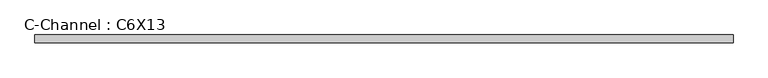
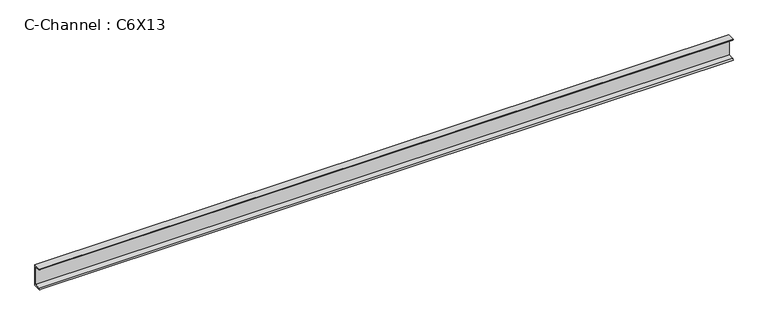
"""IFC4 building model written with IfcOpenShell, lengths in millimetres: beam geometry, C-Channel : C6X13."""

import ifcopenshell
import ifcopenshell.guid

model = None  # the IFC model being written
_history = None  # IfcOwnerHistory: only IFC2X3 demands one
_inside = {}  # id of a spatial element -> (the spatial element, [elements in it])
_under = {}  # id of a project, library or spatial element -> (it, [spatial elements below it])
_declared = {}  # id of a project -> (the project, [libraries it declares])
_typed = {}  # id of a type object -> (the type object, [elements of that type])
_made_of = {}  # id of a material, layer set ... -> (it, [elements and type objects made of it])


def new_model(schema):
    """Start an empty IFC model of exactly this schema.

    Asked for "IFC4X3", IfcOpenShell would pick the latest addendum, in which some entities
    have other attributes; the version numbers below select the first issue.
    IFC2X3 requires an IfcOwnerHistory on every rooted entity: one is made here for all.
    """
    global model, _history
    if schema == "IFC4X3":
        model = ifcopenshell.file(schema_version=(4, 3, 0, 0))
    else:
        model = ifcopenshell.file(schema=schema)
    _inside.clear()
    _under.clear()
    _declared.clear()
    _typed.clear()
    _made_of.clear()
    _history = None
    if model.schema == "IFC2X3":
        org = make("IfcOrganization", Name="unknown")
        user = make(
            "IfcPersonAndOrganization",
            ThePerson=make("IfcPerson", FamilyName="unknown"),
            TheOrganization=org,
        )
        app = make(
            "IfcApplication",
            ApplicationDeveloper=org,
            Version="unknown",
            ApplicationFullName="unknown",
            ApplicationIdentifier="unknown",
        )
        _history = make(
            "IfcOwnerHistory",
            OwningUser=user,
            OwningApplication=app,
            ChangeAction="ADDED",
            CreationDate=0,
        )
    return model


def make(cls, **values):
    """One entity of the class cls with the attributes given. An attribute that is None is left unset."""
    return model.create_entity(
        cls, **{name: value for name, value in values.items() if value is not None}
    )


def rooted(cls, **values):
    """An entity with a GlobalId (a new one), such as an element, a storey or a relation."""
    return make(cls, GlobalId=ifcopenshell.guid.new(), OwnerHistory=_history, **values)


def si_unit(unit_type, name, prefix=None):
    """IfcSIUnit, for example si_unit("LENGTHUNIT", "METRE", prefix="MILLI")."""
    return make("IfcSIUnit", UnitType=unit_type, Prefix=prefix, Name=name)


def assignment(units):
    """IfcUnitAssignment: the units of a project."""
    return None if units is None else make("IfcUnitAssignment", Units=units)


def point(xyz):
    """IfcCartesianPoint."""
    return None if xyz is None else make("IfcCartesianPoint", Coordinates=xyz)


def direction(xyz):
    """IfcDirection."""
    return None if xyz is None else make("IfcDirection", DirectionRatios=xyz)


def frame(location, z_axis=None, x_axis=None):
    """IfcAxis2Placement3D, a coordinate frame: its origin and axes. An axis left out is left unset."""
    return make(
        "IfcAxis2Placement3D",
        Location=point(location),
        Axis=direction(z_axis),
        RefDirection=direction(x_axis),
    )


def frame_2d(location, x_axis=None):
    """IfcAxis2Placement2D, a coordinate frame in the plane: its origin and x axis."""
    return make(
        "IfcAxis2Placement2D", Location=point(location), RefDirection=direction(x_axis)
    )


def origin():
    """The frame at (0, 0, 0) with its axes left unset."""
    return frame((0.0, 0.0, 0.0))


def place(relative_to, where):
    """IfcLocalPlacement: puts the frame where relative to a parent placement (None: the world)."""
    return make(
        "IfcLocalPlacement", PlacementRelTo=relative_to, RelativePlacement=where
    )


def context(
    kind, dimensions, precision=None, world=None, true_north=None, identifier=None
):
    """IfcGeometricRepresentationContext, for example the 3D "Model" context."""
    return make(
        "IfcGeometricRepresentationContext",
        ContextIdentifier=identifier,
        ContextType=kind,
        CoordinateSpaceDimension=dimensions,
        Precision=precision,
        WorldCoordinateSystem=world,
        TrueNorth=true_north,
    )


def project(units=None, contexts=None):
    """IfcProject with its units and contexts."""
    return rooted(
        "IfcProject",
        Name="project",
        RepresentationContexts=contexts,
        UnitsInContext=assignment(units),
    )


def spatial(cls, under=None, at=None, **own):
    """A site, building, storey or space (cls), placed at a placement, below another one or the project."""
    s = rooted(cls, ObjectPlacement=at, **own)
    if under is not None:
        _under.setdefault(under.id(), (under, []))[1].append(s)
    return s


def polyline(points):
    """IfcPolyline through the points."""
    return make("IfcPolyline", Points=[point(p) for p in points])


def circle_curve(where, radius):
    """IfcCircle in the frame where."""
    return make("IfcCircle", Position=where, Radius=radius)


def trimmed(basis, trim1, trim2, sense, master):
    """IfcTrimmedCurve: the piece of a basis curve between two trims."""
    return make(
        "IfcTrimmedCurve",
        BasisCurve=basis,
        Trim1=trim1,
        Trim2=trim2,
        SenseAgreement=sense,
        MasterRepresentation=master,
    )


def segment(curve, same_sense, transition):
    """IfcCompositeCurveSegment."""
    return make(
        "IfcCompositeCurveSegment",
        Transition=transition,
        SameSense=same_sense,
        ParentCurve=curve,
    )


def composite_curve(segments, self_intersect=None):
    """IfcCompositeCurve: segments joined end to end."""
    return make("IfcCompositeCurve", Segments=segments, SelfIntersect=self_intersect)


def outline(outer, holes=None, kind="AREA"):
    """IfcArbitraryClosedProfileDef: a profile drawn as a closed curve; with holes, ...WithVoids."""
    if holes is None:
        return make("IfcArbitraryClosedProfileDef", ProfileType=kind, OuterCurve=outer)
    return make(
        "IfcArbitraryProfileDefWithVoids",
        ProfileType=kind,
        OuterCurve=outer,
        InnerCurves=holes,
    )


def extrude(swept, where, along, depth):
    """IfcExtrudedAreaSolid: the profile swept, set in the frame where, extruded along a direction by depth."""
    return make(
        "IfcExtrudedAreaSolid",
        SweptArea=swept,
        Position=where,
        ExtrudedDirection=direction(along),
        Depth=depth,
    )


def shape(context_of_items, identifier, shape_type, items):
    """IfcShapeRepresentation: the items that make up one representation, for example the "Body"."""
    return make(
        "IfcShapeRepresentation",
        ContextOfItems=context_of_items,
        RepresentationIdentifier=identifier,
        RepresentationType=shape_type,
        Items=items,
    )


def source(mapping_origin, context_of_items, identifier, shape_type, items):
    """IfcRepresentationMap: a shape defined once, which mapped items show again and again."""
    return make(
        "IfcRepresentationMap",
        MappingOrigin=mapping_origin,
        MappedRepresentation=shape(context_of_items, identifier, shape_type, items),
    )


def transform(
    local_origin,
    x_axis=None,
    y_axis=None,
    z_axis=None,
    scale=None,
    scale2=None,
    scale3=None,
    uniform=True,
):
    """IfcCartesianTransformationOperator3D, or its non-uniform kind. x_axis, y_axis, z_axis: its Axis1, 2, 3."""
    if uniform:
        return make(
            "IfcCartesianTransformationOperator3D",
            Axis1=direction(x_axis),
            Axis2=direction(y_axis),
            LocalOrigin=point(local_origin),
            Scale=scale,
            Axis3=direction(z_axis),
        )
    return make(
        "IfcCartesianTransformationOperator3DnonUniform",
        Axis1=direction(x_axis),
        Axis2=direction(y_axis),
        LocalOrigin=point(local_origin),
        Scale=scale,
        Axis3=direction(z_axis),
        Scale2=scale2,
        Scale3=scale3,
    )


def mapped(mapping_source, mapping_target):
    """IfcMappedItem: shows the shape of a source again, moved by a transform."""
    return make(
        "IfcMappedItem", MappingSource=mapping_source, MappingTarget=mapping_target
    )


def made_of(thing, what):
    """Note that an element or type object is made of a material, layer set ...; save() writes the relation."""
    if what is not None:
        _made_of.setdefault(what.id(), (what, []))[1].append(thing)
    return thing


def element(
    cls,
    number,
    at=None,
    inside=None,
    cuts=None,
    type_object=None,
    material=None,
    context=None,
    identifier="Body",
    shape_type=None,
    held_by="IfcProductDefinitionShape",
    body=None,
    shapes=None,
    **own,
):
    """One element of the class cls, such as IfcWall. Its Tag is "e" and its number.

    at: its placement. inside: the storey or other place that contains it. cuts: it is an
    opening in that element (IfcRelVoidsElement). A single representation is given by context,
    identifier, shape_type and body (its items); several are given by shapes. held_by: the class
    of the entity that holds the representations. save() writes the other relations.
    """
    e = rooted(cls, Tag="e%d" % number, ObjectPlacement=at, **own)
    if body is not None:
        shapes = [shape(context, identifier, shape_type, body)]
    if shapes is not None:
        e.Representation = make(held_by, Representations=shapes)
    if inside is not None:
        _inside.setdefault(inside.id(), (inside, []))[1].append(e)
    if cuts is not None:
        rooted(
            "IfcRelVoidsElement", RelatingBuildingElement=cuts, RelatedOpeningElement=e
        )
    if type_object is not None:
        _typed.setdefault(type_object.id(), (type_object, []))[1].append(e)
    return made_of(e, material)


def aggregate(whole, parts):
    """IfcRelAggregates: a whole, such as a stair, and the parts it consists of."""
    return rooted("IfcRelAggregates", RelatingObject=whole, RelatedObjects=parts)


def save(model, path):
    """Write the relations noted so far, then the file.

    IfcRelAggregates (storeys below a building ...), IfcRelContainedInSpatialStructure (elements
    in a storey), IfcRelDefinesByType, IfcRelAssociatesMaterial and IfcRelDeclares: one each for
    every whole, place, type object, material and project.
    """
    for whole, parts in _under.values():
        aggregate(whole, parts)
    for where, things in _inside.values():
        rooted(
            "IfcRelContainedInSpatialStructure",
            RelatedElements=things,
            RelatingStructure=where,
        )
    for kind, things in _typed.values():
        rooted("IfcRelDefinesByType", RelatedObjects=things, RelatingType=kind)
    for what, things in _made_of.values():
        rooted("IfcRelAssociatesMaterial", RelatedObjects=things, RelatingMaterial=what)
    for by, libraries in _declared.values():
        rooted("IfcRelDeclares", RelatingContext=by, RelatedDefinitions=libraries)
    model.write(path)


def c_channel_c6x13_b2b36362(model_context):
    return source(origin(), model_context, "Body", "SweptSolid", [
        extrude(outline(composite_curve([segment(polyline([(13.0556, 76.2), (13.0556, -76.2), (-41.8084, -76.2)]), True, "CONTINUOUS"), segment(trimmed(circle_curve(frame_2d((-33.0962, -76.2)), 8.7122), [point((-41.8084, -76.2))], [point((-33.0962, -67.4878))], False, "CARTESIAN"), True, "CONTINUOUS"), segment(polyline([(-33.0962, -67.4878), (1.9558, -61.9361086), (1.9558, 61.9361086), (-33.0962, 67.4878)]), True, "CONTINUOUS"), segment(trimmed(circle_curve(frame_2d((-33.0962, 76.2)), 8.7122), [point((-33.0962, 67.4878))], [point((-41.8084, 76.2))], False, "CARTESIAN"), True, "CONTINUOUS"), segment(polyline([(-41.8084, 76.2), (13.0556, 76.2)]), True, "CONTINUOUS")], self_intersect=False)), frame((-2397.4979954, 0.0, 0.0), z_axis=(1.0, 0.0, 0.0), x_axis=(0.0, 1.0, 0.0)), (0.0, 0.0, 1.0), 4813.1686466),
    ])


if __name__ == "__main__":
    model = new_model("IFC4")
    model_context = context("Model", 3, world=origin())
    ifc_project = project(units=[si_unit("LENGTHUNIT", "METRE", prefix="MILLI")], contexts=[model_context])
    site = spatial("IfcSite", under=ifc_project)
    building = spatial("IfcBuilding", under=site)
    placement = place(None, origin())
    c_channel_c6x13_shape = c_channel_c6x13_b2b36362(model_context)
    element("IfcBeam", 1, ObjectType="C-Channel : C6X13", at=placement, inside=building, context=model_context, shape_type="MappedRepresentation", body=[
        mapped(c_channel_c6x13_shape, transform((0.0, 0.0, 0.0), x_axis=(1.0, 0.0, 0.0), y_axis=(0.0, 1.0, 0.0), z_axis=(0.0, 0.0, 1.0))),
    ])
    save(model, "model.ifc")
